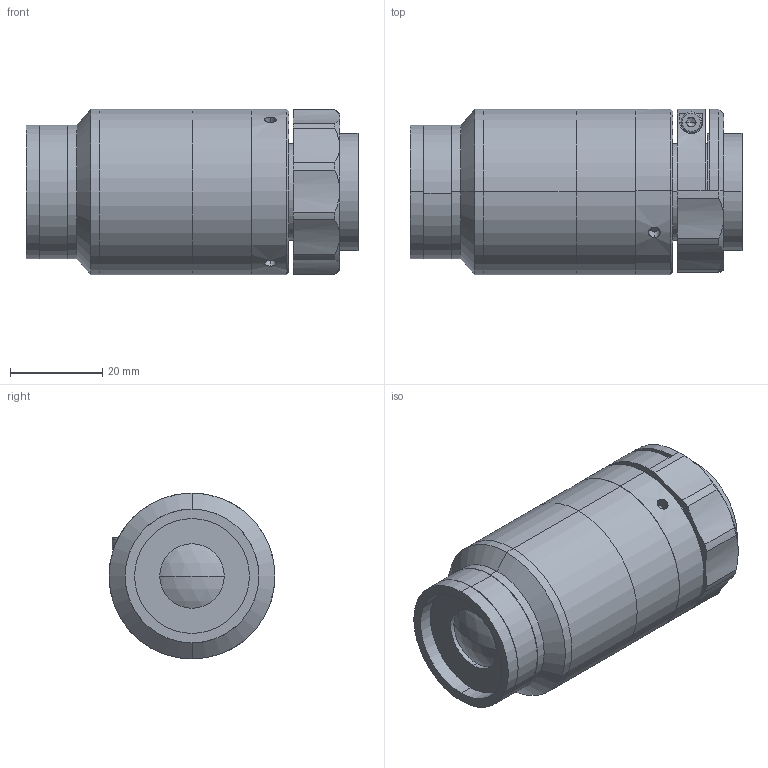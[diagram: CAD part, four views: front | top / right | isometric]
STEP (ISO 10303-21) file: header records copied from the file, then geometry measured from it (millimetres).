
FILE_DESCRIPTION (( 'STEP AP203' ), '1' );
FILE_NAME ('XF-MH07X86.STEP', '2020-08-24T07:07:04', ( 'canrill-02' ), ( '' ), 'SwSTEP 2.0', 'SolidWorks 2014', '' );
FILE_SCHEMA (( 'CONFIG_CONTROL_DESIGN' ));
Length unit declared in the file: millimetre
Products named in the file (1): XF-MH07X86
Bounding box: 72.02 x 36 x 36 mm (x, y, z)
Surface area: 14308.7 mm2 (no closed solid volume)
Topology: 0 solids, 12 shells, 103 faces, 274 edges, 186 vertices
Faces by surface type: cylinder 49, plane 35, cone 15, sphere 2, torus 2
Entity records: 3590 total; most frequent: CARTESIAN_POINT 883, DIRECTION 605, ORIENTED_EDGE 463, EDGE_CURVE 272, AXIS2_PLACEMENT_3D 252, VERTEX_POINT 186, CIRCLE 148, EDGE_LOOP 129
